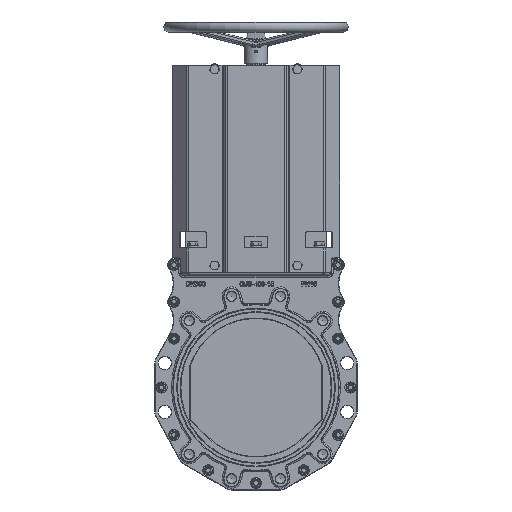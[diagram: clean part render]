
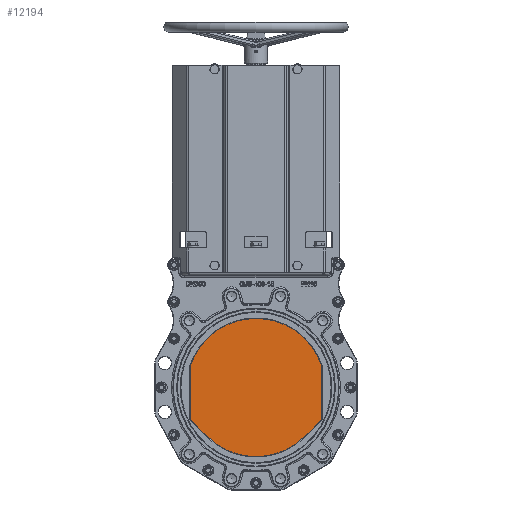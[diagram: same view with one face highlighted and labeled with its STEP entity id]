
A CAD part, top view. The second image highlights one B-rep face of the part: STEP entity #12194.
In plain terms, the highlighted planar face has unit normal (0, 0, 1).
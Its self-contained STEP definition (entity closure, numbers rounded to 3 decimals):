
#1728=PLANE('',#54061);
#5096=LINE('',#73446,#8208);
#5100=LINE('',#73458,#8212);
#5104=LINE('',#73470,#8216);
#5107=LINE('',#73479,#8219);
#8208=VECTOR('',#58869,1.);
#8212=VECTOR('',#58881,1.);
#8216=VECTOR('',#58893,1.);
#8219=VECTOR('',#58904,1.);
#12194=ADVANCED_FACE('',(#15568),#1728,.T.);
#15568=FACE_OUTER_BOUND('',#18523,.T.);
#18523=EDGE_LOOP('',(#28617,#28618,#28619,#28620,#28621,#28622,#28623,#28624,
#28625,#28626));
#28617=ORIENTED_EDGE('',*,*,#44048,.F.);
#28618=ORIENTED_EDGE('',*,*,#44051,.F.);
#28619=ORIENTED_EDGE('',*,*,#44053,.F.);
#28620=ORIENTED_EDGE('',*,*,#44056,.F.);
#28621=ORIENTED_EDGE('',*,*,#44059,.F.);
#28622=ORIENTED_EDGE('',*,*,#44062,.F.);
#28623=ORIENTED_EDGE('',*,*,#44065,.F.);
#28624=ORIENTED_EDGE('',*,*,#44068,.F.);
#28625=ORIENTED_EDGE('',*,*,#44071,.F.);
#28626=ORIENTED_EDGE('',*,*,#44073,.F.);
#39107=VERTEX_POINT('',#73428);
#39108=VERTEX_POINT('',#73430);
#39109=VERTEX_POINT('',#73434);
#39111=VERTEX_POINT('',#73439);
#39112=VERTEX_POINT('',#73444);
#39115=VERTEX_POINT('',#73451);
#39117=VERTEX_POINT('',#73457);
#39119=VERTEX_POINT('',#73463);
#39120=VERTEX_POINT('',#73468);
#39123=VERTEX_POINT('',#73475);
#44048=EDGE_CURVE('',#39107,#39108,#50775,.T.);
#44051=EDGE_CURVE('',#39109,#39107,#50776,.T.);
#44053=EDGE_CURVE('',#39111,#39109,#50777,.T.);
#44056=EDGE_CURVE('',#39112,#39111,#5096,.T.);
#44059=EDGE_CURVE('',#39115,#39112,#50779,.T.);
#44062=EDGE_CURVE('',#39117,#39115,#5100,.T.);
#44065=EDGE_CURVE('',#39119,#39117,#50781,.T.);
#44068=EDGE_CURVE('',#39120,#39119,#5104,.T.);
#44071=EDGE_CURVE('',#39123,#39120,#50783,.T.);
#44073=EDGE_CURVE('',#39108,#39123,#5107,.T.);
#50775=CIRCLE('',#53103,10.);
#50776=CIRCLE('',#53105,150.);
#50777=CIRCLE('',#53107,10.);
#50779=CIRCLE('',#53111,10.);
#50781=CIRCLE('',#53115,150.);
#50783=CIRCLE('',#53119,10.);
#53103=AXIS2_PLACEMENT_3D('',#73429,#58851,#58852);
#53105=AXIS2_PLACEMENT_3D('',#73435,#58857,#58858);
#53107=AXIS2_PLACEMENT_3D('',#73440,#58862,#58863);
#53111=AXIS2_PLACEMENT_3D('',#73452,#58874,#58875);
#53115=AXIS2_PLACEMENT_3D('',#73464,#58886,#58887);
#53119=AXIS2_PLACEMENT_3D('',#73476,#58898,#58899);
#54061=AXIS2_PLACEMENT_3D('',#80252,#61655,#61656);
#58851=DIRECTION('',(0.,0.,-1.));
#58852=DIRECTION('',(1.,0.,0.));
#58857=DIRECTION('',(0.,0.,-1.));
#58858=DIRECTION('',(1.,0.,0.));
#58862=DIRECTION('',(0.,0.,-1.));
#58863=DIRECTION('',(1.,0.,0.));
#58869=DIRECTION('',(0.,1.,0.));
#58874=DIRECTION('',(0.,0.,-1.));
#58875=DIRECTION('',(1.,0.,0.));
#58881=DIRECTION('',(-0.707,0.707,0.));
#58886=DIRECTION('',(0.,0.,-1.));
#58887=DIRECTION('',(1.,0.,0.));
#58893=DIRECTION('',(-0.707,-0.707,0.));
#58898=DIRECTION('',(0.,0.,-1.));
#58899=DIRECTION('',(1.,0.,0.));
#58904=DIRECTION('',(0.,-1.,0.));
#61655=DIRECTION('',(0.,0.,1.));
#61656=DIRECTION('',(1.,0.,0.));
#73428=CARTESIAN_POINT('',(142.5,46.837,6.));
#73429=CARTESIAN_POINT('',(133.,43.715,6.));
#73430=CARTESIAN_POINT('',(143.,43.715,6.));
#73434=CARTESIAN_POINT('',(-142.5,46.837,6.));
#73435=CARTESIAN_POINT('',(0.,0.,6.));
#73439=CARTESIAN_POINT('',(-143.,43.715,6.));
#73440=CARTESIAN_POINT('',(-133.,43.715,6.));
#73444=CARTESIAN_POINT('',(-143.,-64.99,6.));
#73446=CARTESIAN_POINT('',(-143.,45.288,6.));
#73451=CARTESIAN_POINT('',(-140.071,-72.061,6.));
#73452=CARTESIAN_POINT('',(-133.,-64.99,6.));
#73457=CARTESIAN_POINT('',(-106.066,-106.066,6.));
#73458=CARTESIAN_POINT('',(-143.,-69.132,6.));
#73463=CARTESIAN_POINT('',(106.066,-106.066,6.));
#73464=CARTESIAN_POINT('',(0.,0.,6.));
#73468=CARTESIAN_POINT('',(140.071,-72.061,6.));
#73470=CARTESIAN_POINT('',(106.066,-106.066,6.));
#73475=CARTESIAN_POINT('',(143.,-64.99,6.));
#73476=CARTESIAN_POINT('',(133.,-64.99,6.));
#73479=CARTESIAN_POINT('',(143.,-69.132,6.));
#80252=CARTESIAN_POINT('',(0.,131.073,6.));
